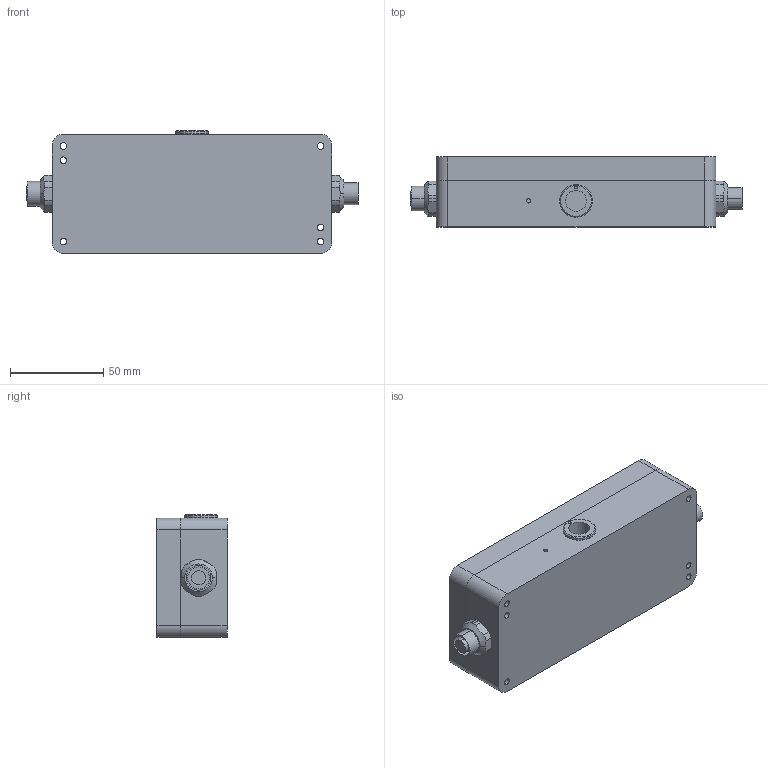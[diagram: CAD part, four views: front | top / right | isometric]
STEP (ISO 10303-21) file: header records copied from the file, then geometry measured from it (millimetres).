
FILE_DESCRIPTION (( 'STEP AP214' ), '1' );
FILE_NAME ('PZLX8-F-S-ID WEB AW.STEP', '2018-03-08T13:09:04', ( '' ), ( '' ), 'SwSTEP 2.0', 'SolidWorks 2017', '' );
FILE_SCHEMA (( 'AUTOMOTIVE_DESIGN' ));
Length unit declared in the file: inch
Products named in the file (6): PZLX8 Case_1; fc_d_103_a056-130_2_1; PZLX8 Lid_1; PZLX8-F-S-ID WEB AW; PZLX8 male connector_1; PZLX8 female connector_1
Assembly tree (5 placements, depth 2):
  PZLX8-F-S-ID WEB AW
    PZLX8 Case_1
    fc_d_103_a056-130_2_1
    PZLX8 female connector_1
    PZLX8 male connector_1
    PZLX8 Lid_1
Bounding box: 178.05 x 37.59 x 65.91 mm (x, y, z)
Volume: 115711.6 mm3; surface area: 72740.1 mm2
Topology: 5 solids, 5 shells, 429 faces, 1141 edges, 758 vertices
Faces by surface type: plane 180, cylinder 131, bspline 100, cone 18
Entity records: 33598 total; most frequent: CARTESIAN_POINT 17738, ORIENTED_EDGE 2282, DIRECTION 1699, EDGE_CURVE 1141, VERTEX_POINT 758, LINE 589, VECTOR 589, AXIS2_PLACEMENT_3D 555
